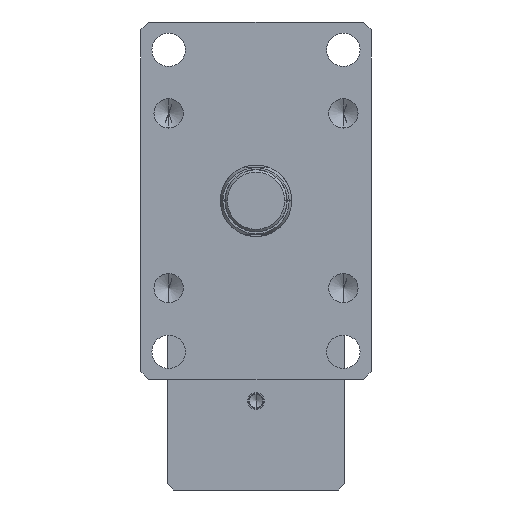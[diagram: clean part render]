
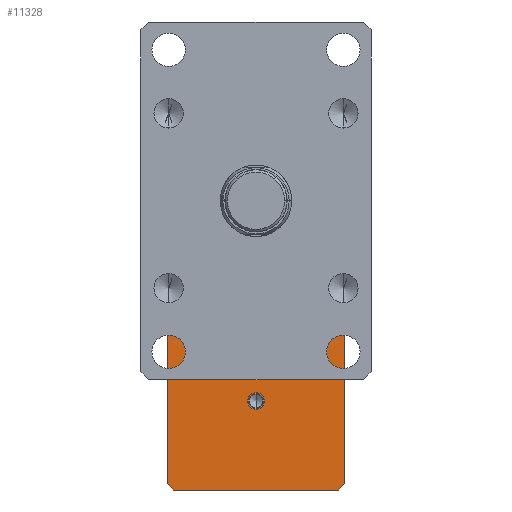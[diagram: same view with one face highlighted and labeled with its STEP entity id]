
A CAD part, left-side view. The second image highlights one B-rep face of the part: STEP entity #11328.
In plain terms, the highlighted planar face has unit normal (-1, 0, 0).
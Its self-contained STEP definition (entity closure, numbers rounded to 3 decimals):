
#40 = VECTOR ( 'NONE', #781, 1000. ) ;
#58 = VECTOR ( 'NONE', #10267, 1000. ) ;
#359 = FACE_OUTER_BOUND ( 'NONE', #3100, .T. ) ;
#781 = DIRECTION ( 'NONE',  ( 0., 1., 0. ) ) ;
#796 = EDGE_CURVE ( 'NONE', #955, #11156, #5935, .T. ) ;
#837 = CARTESIAN_POINT ( 'NONE',  ( 325., 56., -182. ) ) ;
#838 = EDGE_CURVE ( 'NONE', #4962, #3086, #5313, .T. ) ;
#955 = VERTEX_POINT ( 'NONE', #9938 ) ;
#1015 = CARTESIAN_POINT ( 'NONE',  ( 325., -56., -74. ) ) ;
#1316 = EDGE_CURVE ( 'NONE', #11746, #1481, #11760, .T. ) ;
#1367 = DIRECTION ( 'NONE',  ( 0., 0.707, -0.707 ) ) ;
#1481 = VERTEX_POINT ( 'NONE', #8556 ) ;
#1862 = DIRECTION ( 'NONE',  ( 0., 0., 1. ) ) ;
#1962 = VECTOR ( 'NONE', #10736, 1000. ) ;
#2331 = CARTESIAN_POINT ( 'NONE',  ( 325., -56., -182. ) ) ;
#2336 = ORIENTED_EDGE ( 'NONE', *, *, #1316, .F. ) ;
#2359 = DIRECTION ( 'NONE',  ( -1., 0., 0. ) ) ;
#2549 = LINE ( 'NONE', #1015, #7464 ) ;
#2688 = LINE ( 'NONE', #3393, #58 ) ;
#2999 = DIRECTION ( 'NONE',  ( 0., 0.707, 0.707 ) ) ;
#3040 = EDGE_CURVE ( 'NONE', #11546, #9004, #4593, .T. ) ;
#3086 = VERTEX_POINT ( 'NONE', #7836 ) ;
#3100 = EDGE_LOOP ( 'NONE', ( #9003, #9284, #7460, #10317, #4796, #7620, #7923, #4530 ) ) ;
#3320 = VECTOR ( 'NONE', #1862, 1000. ) ;
#3393 = CARTESIAN_POINT ( 'NONE',  ( 325., 52., -182. ) ) ;
#4040 = VECTOR ( 'NONE', #1367, 1000. ) ;
#4456 = CARTESIAN_POINT ( 'NONE',  ( 325., -52., -182. ) ) ;
#4530 = ORIENTED_EDGE ( 'NONE', *, *, #838, .T. ) ;
#4577 = AXIS2_PLACEMENT_3D ( 'NONE', #5071, #11962, #6067 ) ;
#4593 = LINE ( 'NONE', #8745, #1962 ) ;
#4796 = ORIENTED_EDGE ( 'NONE', *, *, #796, .F. ) ;
#4962 = VERTEX_POINT ( 'NONE', #4456 ) ;
#5071 = CARTESIAN_POINT ( 'NONE',  ( 325., 0., -126. ) ) ;
#5172 = VERTEX_POINT ( 'NONE', #10608 ) ;
#5181 = DIRECTION ( 'NONE',  ( 0., 0., 1. ) ) ;
#5298 = DIRECTION ( 'NONE',  ( 1., 0., 0. ) ) ;
#5313 = LINE ( 'NONE', #9166, #10539 ) ;
#5456 = AXIS2_PLACEMENT_3D ( 'NONE', #8238, #2359, #9230 ) ;
#5935 = LINE ( 'NONE', #837, #3320 ) ;
#6067 = DIRECTION ( 'NONE',  ( 0., 0., 1. ) ) ;
#6134 = DIRECTION ( 'NONE',  ( 0., -0.707, 0.707 ) ) ;
#6291 = CARTESIAN_POINT ( 'NONE',  ( 325., 56., -74. ) ) ;
#6956 = LINE ( 'NONE', #6291, #4040 ) ;
#7043 = VERTEX_POINT ( 'NONE', #7817 ) ;
#7231 = EDGE_CURVE ( 'NONE', #3086, #7043, #11618, .T. ) ;
#7352 = CARTESIAN_POINT ( 'NONE',  ( 325., 0., -131.143 ) ) ;
#7460 = ORIENTED_EDGE ( 'NONE', *, *, #3040, .T. ) ;
#7464 = VECTOR ( 'NONE', #2999, 1000. ) ;
#7620 = ORIENTED_EDGE ( 'NONE', *, *, #12788, .T. ) ;
#7817 = CARTESIAN_POINT ( 'NONE',  ( 325., -56., -74. ) ) ;
#7836 = CARTESIAN_POINT ( 'NONE',  ( 325., -56., -178. ) ) ;
#7868 = LINE ( 'NONE', #12597, #40 ) ;
#7923 = ORIENTED_EDGE ( 'NONE', *, *, #8094, .F. ) ;
#7992 = ORIENTED_EDGE ( 'NONE', *, *, #11625, .F. ) ;
#8094 = EDGE_CURVE ( 'NONE', #4962, #5172, #7868, .T. ) ;
#8238 = CARTESIAN_POINT ( 'NONE',  ( 325., 0., -126. ) ) ;
#8556 = CARTESIAN_POINT ( 'NONE',  ( 325., 0., -120.857 ) ) ;
#8745 = CARTESIAN_POINT ( 'NONE',  ( 325., -56., -70. ) ) ;
#8850 = CARTESIAN_POINT ( 'NONE',  ( 325., 56., -74. ) ) ;
#9003 = ORIENTED_EDGE ( 'NONE', *, *, #7231, .T. ) ;
#9004 = VERTEX_POINT ( 'NONE', #11565 ) ;
#9166 = CARTESIAN_POINT ( 'NONE',  ( 325., -52., -182. ) ) ;
#9230 = DIRECTION ( 'NONE',  ( 0., 0., 1. ) ) ;
#9284 = ORIENTED_EDGE ( 'NONE', *, *, #12026, .T. ) ;
#9337 = EDGE_CURVE ( 'NONE', #9004, #11156, #6956, .T. ) ;
#9878 = FACE_BOUND ( 'NONE', #11154, .T. ) ;
#9938 = CARTESIAN_POINT ( 'NONE',  ( 325., 56., -178. ) ) ;
#10267 = DIRECTION ( 'NONE',  ( 0., -0.707, -0.707 ) ) ;
#10317 = ORIENTED_EDGE ( 'NONE', *, *, #9337, .T. ) ;
#10340 = CIRCLE ( 'NONE', #4577, 5.143 ) ;
#10539 = VECTOR ( 'NONE', #6134, 1000. ) ;
#10608 = CARTESIAN_POINT ( 'NONE',  ( 325., 52., -182. ) ) ;
#10736 = DIRECTION ( 'NONE',  ( 0., 1., 0. ) ) ;
#11154 = EDGE_LOOP ( 'NONE', ( #7992, #2336 ) ) ;
#11156 = VERTEX_POINT ( 'NONE', #8850 ) ;
#11196 = PLANE ( 'NONE',  #12709 ) ;
#11318 = VECTOR ( 'NONE', #5181, 1000. ) ;
#11328 = ADVANCED_FACE ( 'NONE', ( #9878, #359 ), #11196, .F. ) ;
#11546 = VERTEX_POINT ( 'NONE', #11777 ) ;
#11565 = CARTESIAN_POINT ( 'NONE',  ( 325., 52., -70. ) ) ;
#11618 = LINE ( 'NONE', #12064, #11318 ) ;
#11625 = EDGE_CURVE ( 'NONE', #1481, #11746, #10340, .T. ) ;
#11746 = VERTEX_POINT ( 'NONE', #7352 ) ;
#11760 = CIRCLE ( 'NONE', #5456, 5.143 ) ;
#11777 = CARTESIAN_POINT ( 'NONE',  ( 325., -52., -70. ) ) ;
#11962 = DIRECTION ( 'NONE',  ( -1., 0., 0. ) ) ;
#12026 = EDGE_CURVE ( 'NONE', #7043, #11546, #2549, .T. ) ;
#12064 = CARTESIAN_POINT ( 'NONE',  ( 325., -56., -182. ) ) ;
#12195 = DIRECTION ( 'NONE',  ( 0., 0., -1. ) ) ;
#12597 = CARTESIAN_POINT ( 'NONE',  ( 325., -56., -182. ) ) ;
#12709 = AXIS2_PLACEMENT_3D ( 'NONE', #2331, #5298, #12195 ) ;
#12788 = EDGE_CURVE ( 'NONE', #955, #5172, #2688, .T. ) ;
